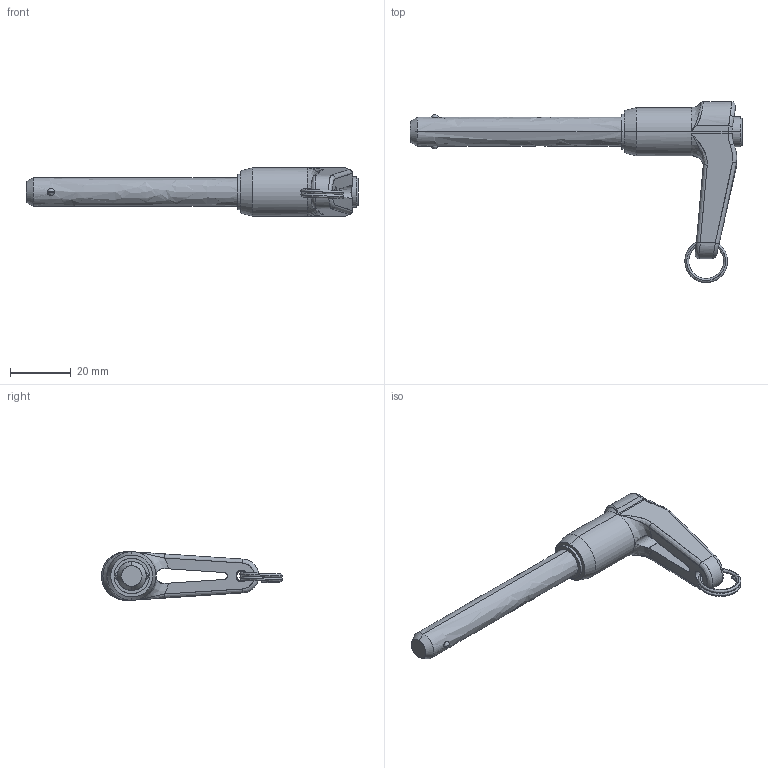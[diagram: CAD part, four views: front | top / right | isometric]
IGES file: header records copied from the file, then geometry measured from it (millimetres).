
Start section: SolidWorks IGES file using analytic representation for surfaces
Global section: file name: C:\Documents and Settings\IANO\My Documents\Wix and Auto CAD Work\CAD Models\Parametric Models\Wix Models\30000\33620_v2\33620_v2_20160606_IGES\33620.D024.igs; native system: SolidWorks 2009; preprocessor: SolidWorks 2009; author: IANO; date: 160615.130012; units: inch
Bounding box: 108.9 x 59.35 x 15.88 mm (x, y, z)
Surface area: 8643.7 mm2 (no closed solid volume)
Topology: 0 solids, 0 shells, 83 faces, 1217 edges, 1215 vertices
Faces by surface type: bspline 53, revolution 30
